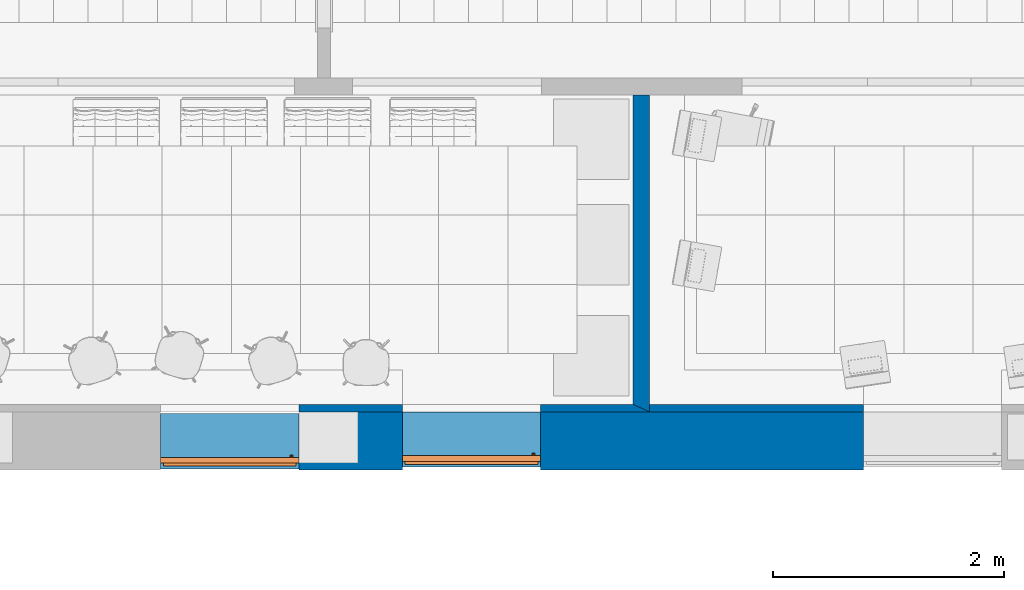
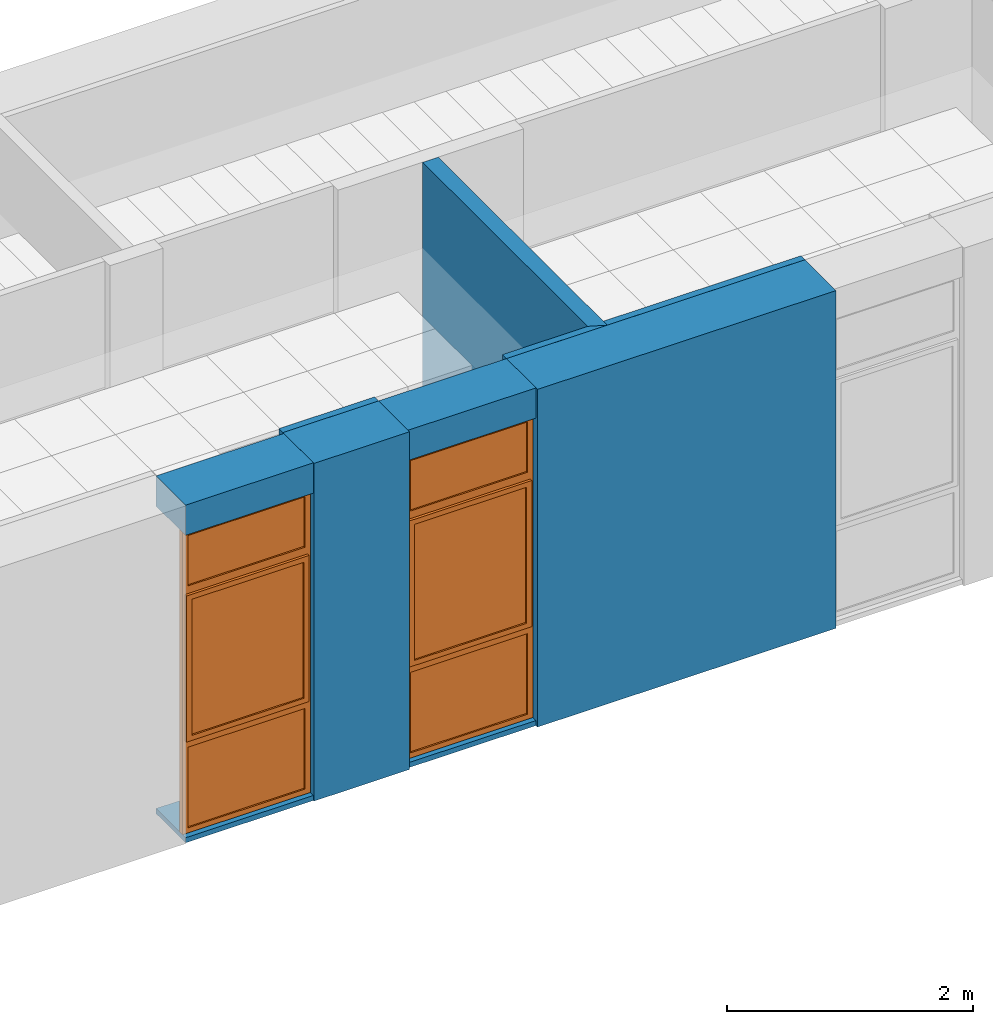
# One storey, part 37 of 68: 8 walls, 2 proxies, 2 openings.
"""IFC2X3 building model written with IfcOpenShell, lengths in millimetres."""

from ifc_helpers import new_model, entity, si_unit, converted_unit, derived_unit, money_unit, direction, frame, origin_with_axes, origin_2d_with_axis, place, context, subcontext, project, spatial, polyline, rectangle, outline, extrude, open_shell, faceted_brep, surface_model, source, transform, mapped, material, layer, layer_set, layer_usage, type_object, element, fill, save


model = new_model("IFC2X3")

# Units and contexts
model_context = context("Model", 3, precision=0.01, world=origin_with_axes(), true_north=direction((0.0, 1.0)))
body_context = subcontext(model_context, "Body", "Model", "MODEL_VIEW")
ifc_project = project(units=[si_unit("LENGTHUNIT", "METRE", prefix="MILLI"), si_unit("AREAUNIT", "SQUARE_METRE"), si_unit("VOLUMEUNIT", "CUBIC_METRE"), converted_unit("PLANEANGLEUNIT", "DEGREE", entity("IfcPlaneAngleMeasure", 0.0174532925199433), si_unit("PLANEANGLEUNIT", "RADIAN"), dimensions=[0, 0, 0, 0, 0, 0, 0]), money_unit("USD"), converted_unit("TIMEUNIT", "Year", entity("IfcTimeMeasure", 31557600.0), si_unit("TIMEUNIT", "SECOND"), dimensions=[0, 0, 1, 0, 0, 0, 0]), si_unit("MASSUNIT", "GRAM", prefix="KILO"), si_unit("THERMODYNAMICTEMPERATUREUNIT", "DEGREE_CELSIUS"), si_unit("LUMINOUSINTENSITYUNIT", "LUMEN"), si_unit("ENERGYUNIT", "JOULE", prefix="MEGA"), derived_unit("THERMALCONDUCTANCEUNIT", [(si_unit("POWERUNIT", "WATT"), 1), (si_unit("LENGTHUNIT", "METRE"), -1), (si_unit("THERMODYNAMICTEMPERATUREUNIT", "KELVIN"), -1)]), derived_unit("SPECIFICHEATCAPACITYUNIT", [(si_unit("ENERGYUNIT", "JOULE"), 1), (si_unit("MASSUNIT", "GRAM", prefix="KILO"), -1), (si_unit("THERMODYNAMICTEMPERATUREUNIT", "KELVIN"), -1)]), derived_unit("MASSDENSITYUNIT", [(si_unit("MASSUNIT", "GRAM", prefix="KILO"), 1), (si_unit("VOLUMEUNIT", "CUBIC_METRE"), -1)])], contexts=[model_context])

# Site, building, storey
site_placement = place(None, origin_with_axes())
site = spatial("IfcSite", under=ifc_project, at=site_placement, Name="Sitio", CompositionType="ELEMENT")
building_placement = place(site_placement, origin_with_axes())
building = spatial("IfcBuilding", under=site, at=building_placement, Name="Construcción", CompositionType="ELEMENT")
storey_placement = place(building_placement, origin_with_axes())
storey = spatial("IfcBuildingStorey", under=building, at=storey_placement, Name="PLANTA 1ª", CompositionType="ELEMENT", Elevation=0.0)

# Wall, opening, proxy
ifc_material_1 = material(Name="ARQ_AM246_Arrebossat_De_Guix")
ifc_layer_1 = layer(ifc_material_1, 10.0, ventilated="UNKNOWN")
ifc_material_2 = material(Name="ARQ_CE217_Gero")
ifc_layer_2 = layer(ifc_material_2, 120.0, ventilated="UNKNOWN")
ifc_material_3 = material(Name="ARQ_AI031_Aillament_Poliestireno expandido EPS")
ifc_layer_3 = layer(ifc_material_3, 120.0, ventilated="UNKNOWN")
ifc_material_4 = material(Name="ARQ_CE218_Ceramic")
ifc_layer_4 = layer(ifc_material_4, 220.0, ventilated="UNKNOWN")
ifc_layer_5 = layer(ifc_material_1, 10.0, ventilated="UNKNOWN")
ifc_layer_set_1 = layer_set([ifc_layer_1, ifc_layer_2, ifc_layer_3, ifc_layer_4, ifc_layer_5], Name="façana pati CR2 (ampit)")
ifc_layer_usage_1 = layer_usage(ifc_layer_set_1, "AXIS2", "POSITIVE", -480.0)
wall_type_1 = type_object("IfcWallType", Name="façana pati CR2 (ampit) 480", PredefinedType="NOTDEFINED")
wall_1_placement = place(storey_placement, frame((-20233.93135579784, -1208.975823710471, 0.0), z_axis=(0.0, 0.0, 1.0), x_axis=(1.0, 0.0, 0.0)))
wall_1 = element("IfcWallStandardCase", 1, at=wall_1_placement, inside=storey, type_object=wall_type_1, material=ifc_layer_usage_1, Name="MS-200", context=body_context, shape_type="SweptSolid", body=[
    extrude(outline(polyline([(0.0, -480.0), (1200.000000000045, -480.0), (1200.000000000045, 0.0), (0.0, 0.0), (0.0, -480.0)])), origin_with_axes(), (0.0, 0.0, 1.0), 3350.0),
])
opening_1_placement = place(wall_1_placement, frame((600.0000000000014, 0.0, 50.0), z_axis=(0.0, 0.0, 1.0), x_axis=(1.0, 0.0, 0.0)))
opening_1 = element("IfcOpeningElement", 2, at=opening_1_placement, cuts=wall_1, Name="F01", context=body_context, shape_type="SweptSolid", body=[
    extrude(rectangle(XDim=1200.000000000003, YDim=3000.0, at=origin_2d_with_axis()), frame((0.0, -429.9999999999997, 1500.0), z_axis=(0.0, -1.0, 0.0), x_axis=(-1.0, 0.0, 0.0)), (0.0, 0.0, -1.0), 909.9999999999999),
    extrude(rectangle(XDim=1200.000000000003, YDim=3000.0, at=origin_2d_with_axis()), frame((0.0, -429.9999999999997, 1500.0), z_axis=(0.0, 1.0, 0.0), x_axis=(-1.0, 0.0, 0.0)), (0.0, 0.0, -1.0), 530.0),
])
building_element_proxy_type = type_object("IfcBuildingElementProxyType", Name="Ventana Vertical Multi-Faja 27", PredefinedType="NOTDEFINED")
shared_shape = source(origin_with_axes(), body_context, "Body", "SurfaceModel", [
    faceted_brep([(-575.0, 0.0, 925.0), (-549.9999999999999, 0.0, 925.0), (-549.9999999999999, 0.0, 850.0), (-549.9999999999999, 0.0, 50.00000000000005), (-600.0, 0.0, 50.00000000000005), (-600.0, 0.0, 2950.0), (-549.9999999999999, 0.0, 2950.0), (-549.9999999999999, 0.0, 2450.0), (-549.9999999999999, 0.0, 2375.0), (-575.0, 0.0, 2375.0), (-575.0, -25.00000000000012, 925.0), (-549.9999999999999, -25.00000000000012, 925.0), (-549.9999999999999, -25.00000000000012, 950.0000000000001), (-549.9999999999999, -50.00000000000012, 950.0000000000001), (-549.9999999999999, -50.00000000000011, 850.0), (-549.9999999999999, -50.00000000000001, 50.00000000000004), (-600.0, -50.00000000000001, 50.00000000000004), (-600.0, -50.00000000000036, 2950.0), (-549.9999999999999, -50.00000000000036, 2950.0), (-549.9999999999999, -50.0000000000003, 2450.0), (-550.0, -25.00000000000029, 2375.0), (-549.9999999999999, -50.00000000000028, 2350.0), (-549.9999999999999, -25.00000000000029, 2350.0), (-575.0, -25.00000000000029, 2375.0)], [[[0, 1, 2, 3, 4, 5, 6, 7, 8, 9]], [[0, 10, 11, 1]], [[11, 12, 13, 14, 2, 1]], [[3, 2, 14, 15]], [[4, 3, 15, 16]], [[5, 4, 16, 17]], [[6, 5, 17, 18]], [[7, 6, 18, 19]], [[20, 8, 7, 19, 21, 22]], [[20, 23, 9, 8]], [[9, 23, 10, 0]], [[22, 12, 11, 10, 23, 20]], [[22, 21, 13, 12]], [[17, 16, 15, 14, 13, 21, 19, 18]]]),
    faceted_brep([(575.0, 0.0, 925.0), (575.0, 0.0, 2375.0), (549.9999999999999, 0.0, 2375.0), (549.9999999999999, 0.0, 2450.0), (549.9999999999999, 0.0, 2950.0), (600.0, 0.0, 2950.0), (600.0, 0.0, 50.00000000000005), (549.9999999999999, 0.0, 50.00000000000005), (549.9999999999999, 0.0, 850.0), (549.9999999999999, 0.0, 925.0), (575.0, -25.00000000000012, 925.0), (575.0, -25.00000000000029, 2375.0), (549.9999999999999, -25.00000000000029, 2375.0), (549.9999999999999, -25.00000000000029, 2350.0), (549.9999999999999, -50.00000000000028, 2350.0), (549.9999999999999, -50.0000000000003, 2450.0), (549.9999999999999, -50.00000000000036, 2950.0), (600.0, -50.00000000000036, 2950.0), (600.0, -50.00000000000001, 50.00000000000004), (549.9999999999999, -50.00000000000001, 50.00000000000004), (549.9999999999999, -50.00000000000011, 850.0), (550.0, -25.00000000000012, 925.0), (549.9999999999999, -50.00000000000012, 950.0000000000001), (549.9999999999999, -25.00000000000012, 950.0000000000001)], [[[0, 1, 2, 3, 4, 5, 6, 7, 8, 9]], [[0, 10, 11, 1]], [[1, 11, 12, 2]], [[12, 13, 14, 15, 3, 2]], [[4, 3, 15, 16]], [[5, 4, 16, 17]], [[6, 5, 17, 18]], [[7, 6, 18, 19]], [[8, 7, 19, 20]], [[21, 9, 8, 20, 22, 23]], [[9, 21, 10, 0]], [[12, 11, 10, 21, 23, 13]], [[23, 22, 14, 13]], [[14, 22, 20, 19, 18, 17, 16, 15]]]),
    faceted_brep([(-549.9999999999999, -25.00000000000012, 950.0000000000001), (-549.9999999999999, -50.00000000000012, 950.0000000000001), (549.9999999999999, -50.00000000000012, 950.0000000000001), (549.9999999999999, -25.00000000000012, 950.0000000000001), (-549.9999999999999, -25.00000000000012, 925.0), (-549.9999999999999, 0.0, 925.0), (-549.9999999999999, 0.0, 850.0), (-549.9999999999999, -50.00000000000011, 850.0), (549.9999999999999, -50.00000000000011, 850.0), (550.0, -25.00000000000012, 925.0), (549.9999999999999, 0.0, 850.0), (549.9999999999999, 0.0, 925.0)], [[[0, 1, 2, 3]], [[4, 5, 6, 7, 1, 0]], [[1, 7, 8, 2]], [[9, 3, 2, 8, 10, 11]], [[9, 4, 0, 3]], [[5, 4, 9, 11]], [[11, 10, 6, 5]], [[6, 10, 8, 7]]]),
    faceted_brep([(-549.9999999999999, 0.0, 2375.0), (-549.9999999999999, 0.0, 2450.0), (549.9999999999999, 0.0, 2450.0), (549.9999999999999, 0.0, 2375.0), (-550.0, -25.00000000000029, 2375.0), (-549.9999999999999, -25.00000000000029, 2350.0), (-549.9999999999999, -50.00000000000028, 2350.0), (-549.9999999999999, -50.0000000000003, 2450.0), (549.9999999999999, -50.0000000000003, 2450.0), (549.9999999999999, -25.00000000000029, 2375.0), (549.9999999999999, -50.00000000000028, 2350.0), (549.9999999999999, -25.00000000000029, 2350.0)], [[[0, 1, 2, 3]], [[4, 5, 6, 7, 1, 0]], [[2, 1, 7, 8]], [[9, 3, 2, 8, 10, 11]], [[9, 4, 0, 3]], [[11, 5, 4, 9]], [[11, 10, 6, 5]], [[7, 6, 10, 8]]]),
    faceted_brep([(549.9999999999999, -50.00000000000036, 2950.0), (549.9999999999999, 0.0, 2950.0), (600.0, 0.0, 2950.0), (600.0, -50.00000000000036, 2950.0), (-549.9999999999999, -50.00000000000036, 2950.0), (-549.9999999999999, 0.0, 2950.0), (-600.0, 0.0, 2950.0), (-600.0, 0.0, 3000.0), (600.0, 0.0, 3000.0), (600.0, -50.00000000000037, 3000.0), (-600.0, -50.00000000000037, 3000.0), (-600.0, -50.00000000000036, 2950.0)], [[[0, 1, 2, 3]], [[4, 5, 1, 0]], [[1, 5, 6, 7, 8, 2]], [[3, 2, 8, 9]], [[0, 3, 9, 10, 11, 4]], [[11, 6, 5, 4]], [[10, 7, 6, 11]], [[9, 8, 7, 10]]]),
    faceted_brep([(-549.9999999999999, -50.00000000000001, 50.0), (-549.9999999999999, 0.0, 50.00000000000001), (-600.0, 0.0, 50.00000000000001), (-600.0, -50.00000000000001, 50.0), (549.9999999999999, -50.00000000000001, 50.0), (549.9999999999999, 0.0, 50.00000000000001), (600.0, 0.0, 50.00000000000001), (600.0, 0.0, 0.0), (-600.0, 0.0, 0.0), (-600.0, -50.0, 0.0), (600.0, -50.0, 0.0), (600.0, -50.00000000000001, 50.0)], [[[0, 1, 2, 3]], [[4, 5, 1, 0]], [[1, 5, 6, 7, 8, 2]], [[3, 2, 8, 9]], [[0, 3, 9, 10, 11, 4]], [[11, 6, 5, 4]], [[10, 7, 6, 11]], [[9, 8, 7, 10]]]),
    surface_model("IfcShellBasedSurfaceModel", [(-549.9999999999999, -35.0, 49.99999999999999), (549.9999999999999, -35.0, 49.99999999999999), (549.9999999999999, -35.0000000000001, 850.0), (-549.9999999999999, -35.0000000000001, 850.0)], [open_shell([[[0, 1, 2, 3]]])]),
    surface_model("IfcShellBasedSurfaceModel", [(-549.9999999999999, -15.0, 49.99999999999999), (-549.9999999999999, -15.0000000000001, 850.0), (549.9999999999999, -15.0000000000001, 850.0), (549.9999999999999, -15.0, 49.99999999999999)], [open_shell([[[0, 1, 2, 3]]])]),
    faceted_brep([(-521.5, -25.00000000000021, 1677.0), (-522.8397459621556, -25.00000000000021, 1682.0), (-522.8397459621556, -37.00000000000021, 1682.0), (-521.5, -37.00000000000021, 1677.0), (-521.5, -25.0000000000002, 1623.0), (-522.8397459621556, -25.0000000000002, 1618.0), (-526.5, -25.0000000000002, 1614.339745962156), (-531.5, -25.0000000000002, 1613.0), (-543.5, -25.0000000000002, 1613.0), (-548.5, -25.0000000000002, 1614.339745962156), (-552.1602540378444, -25.0000000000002, 1618.0), (-553.5, -25.0000000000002, 1623.0), (-553.5, -25.00000000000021, 1677.0), (-552.1602540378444, -25.00000000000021, 1682.0), (-548.5, -25.00000000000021, 1685.660254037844), (-543.5, -25.00000000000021, 1687.0), (-531.5, -25.00000000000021, 1687.0), (-526.5, -25.00000000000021, 1685.660254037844), (-526.5, -37.00000000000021, 1685.660254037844), (-531.5, -37.00000000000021, 1687.0), (-543.5, -37.00000000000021, 1687.0), (-548.5, -37.00000000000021, 1685.660254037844), (-552.1602540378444, -37.00000000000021, 1682.0), (-553.5, -37.00000000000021, 1677.0), (-553.5, -37.0000000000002, 1623.0), (-552.1602540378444, -37.0000000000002, 1618.0), (-548.5, -37.0000000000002, 1614.339745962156), (-543.5, -37.0000000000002, 1613.0), (-531.5, -37.0000000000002, 1613.0), (-526.5, -37.0000000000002, 1614.339745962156), (-522.8397459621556, -37.0000000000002, 1618.0), (-521.5, -37.0000000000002, 1623.0)], [[[0, 1, 2, 3]], [[0, 4, 5, 6, 7, 8, 9, 10, 11, 12, 13, 14, 15, 16, 17, 1]], [[1, 17, 18, 2]], [[3, 2, 18, 19, 20, 21, 22, 23, 24, 25, 26, 27, 28, 29, 30, 31]], [[4, 0, 3, 31]], [[5, 4, 31, 30]], [[6, 5, 30, 29]], [[7, 6, 29, 28]], [[8, 7, 28, 27]], [[9, 8, 27, 26]], [[10, 9, 26, 25]], [[11, 10, 25, 24]], [[12, 11, 24, 23]], [[13, 12, 23, 22]], [[14, 13, 22, 21]], [[15, 14, 21, 20]], [[16, 15, 20, 19]], [[17, 16, 19, 18]]]),
    faceted_brep([(-537.5, -37.0000000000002, 1663.5), (-544.25, -37.0000000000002, 1661.69134295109), (-544.25, -61.00000000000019, 1661.69134295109), (-537.5, -61.00000000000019, 1663.5), (-530.75, -37.0000000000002, 1661.69134295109), (-525.80865704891, -37.0000000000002, 1656.75), (-524.0, -37.0000000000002, 1650.0), (-525.8086570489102, -37.0000000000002, 1643.25), (-530.75, -37.0000000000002, 1638.30865704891), (-537.5, -37.0000000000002, 1636.5), (-544.25, -37.0000000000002, 1638.30865704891), (-549.19134295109, -37.0000000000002, 1643.25), (-550.9999999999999, -37.0000000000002, 1650.0), (-549.1913429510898, -37.0000000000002, 1656.75), (-549.1913429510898, -61.00000000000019, 1656.75), (-550.9999999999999, -61.00000000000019, 1650.0), (-549.19134295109, -61.00000000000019, 1643.25), (-544.25, -61.00000000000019, 1638.30865704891), (-537.5, -61.00000000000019, 1636.5), (-530.75, -61.00000000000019, 1638.30865704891), (-525.8086570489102, -61.00000000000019, 1643.25), (-524.0, -61.00000000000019, 1650.0), (-525.80865704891, -61.00000000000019, 1656.75), (-530.75, -61.00000000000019, 1661.69134295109)], [[[0, 1, 2, 3]], [[0, 4, 5, 6, 7, 8, 9, 10, 11, 12, 13, 1]], [[1, 13, 14, 2]], [[3, 2, 14, 15, 16, 17, 18, 19, 20, 21, 22, 23]], [[4, 0, 3, 23]], [[5, 4, 23, 22]], [[6, 5, 22, 21]], [[7, 6, 21, 20]], [[8, 7, 20, 19]], [[9, 8, 19, 18]], [[10, 9, 18, 17]], [[11, 10, 17, 16]], [[12, 11, 16, 15]], [[13, 12, 15, 14]]]),
    faceted_brep([(-526.0, -61.00000000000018, 1543.0), (-537.5, -61.00000000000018, 1540.0), (-548.9999999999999, -61.00000000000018, 1543.0), (-550.9999999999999, -61.00000000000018, 1546.0), (-550.9999999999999, -61.00000000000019, 1650.0), (-549.1913429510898, -61.00000000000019, 1656.75), (-544.25, -61.00000000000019, 1661.69134295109), (-537.5, -61.00000000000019, 1663.5), (-530.75, -61.00000000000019, 1661.69134295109), (-525.80865704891, -61.00000000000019, 1656.75), (-524.0, -61.00000000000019, 1650.0), (-524.0, -61.00000000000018, 1546.0), (-525.9999999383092, -69.00000000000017, 1543.000000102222), (-537.499999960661, -69.00000000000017, 1539.999999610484), (-548.9999999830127, -69.00000000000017, 1543.000000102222), (-551.0000003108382, -69.00000000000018, 1545.999999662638), (-551.0000003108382, -69.0000000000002, 1649.99999994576), (-549.1913429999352, -69.0000000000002, 1656.749999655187), (-544.2499996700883, -69.0000000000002, 1661.691342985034), (-537.499999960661, -69.0000000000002, 1663.500000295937), (-530.7500002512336, -69.0000000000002, 1661.691342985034), (-525.8086569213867, -69.0000000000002, 1656.749999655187), (-523.9999996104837, -69.0000000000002, 1649.99999994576), (-523.9999996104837, -69.00000000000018, 1545.999999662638), (-527.8625374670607, -71.99999956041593, 1545.61451963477), (-537.499999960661, -71.99999956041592, 1543.100398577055), (-547.1374624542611, -71.99999956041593, 1545.61451963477), (-548.0000007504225, -71.99999956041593, 1546.908326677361), (-548.0000007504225, -71.99999956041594, 1649.605042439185), (-546.5016170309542, -71.99999956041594, 1655.197085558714), (-542.6970855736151, -71.99999956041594, 1659.001617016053), (-537.499999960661, -71.99999956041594, 1660.394172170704), (-532.3029143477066, -71.99999956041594, 1659.001617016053), (-528.4983828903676, -71.99999956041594, 1655.197085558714), (-526.9999991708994, -71.99999956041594, 1649.605042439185), (-526.9999991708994, -71.99999956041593, 1546.908326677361)], [[[0, 1, 2, 3, 4, 5, 6, 7, 8, 9, 10, 11]], [[1, 0, 12, 13]], [[2, 1, 13, 14]], [[3, 2, 14, 15]], [[4, 3, 15, 16]], [[5, 4, 16, 17]], [[6, 5, 17, 18]], [[7, 6, 18, 19]], [[8, 7, 19, 20]], [[9, 8, 20, 21]], [[10, 9, 21, 22]], [[11, 10, 22, 23]], [[0, 11, 23, 12]], [[13, 12, 24, 25]], [[14, 13, 25, 26]], [[15, 14, 26, 27]], [[16, 15, 27, 28]], [[17, 16, 28, 29]], [[18, 17, 29, 30]], [[19, 18, 30, 31]], [[20, 19, 31, 32]], [[21, 20, 32, 33]], [[22, 21, 33, 34]], [[23, 22, 34, 35]], [[12, 23, 35, 24]], [[26, 25, 24, 35, 34, 33, 32, 31, 30, 29, 28, 27]]]),
    faceted_brep([(-524.9999999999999, -25.00000000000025, 2325.0), (-524.9999999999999, 24.99999999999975, 2325.0), (-575.0, 24.99999999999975, 2325.0), (-575.0, -25.00000000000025, 2325.0), (-524.9999999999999, -25.00000000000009, 975.0000000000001), (-524.9999999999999, 24.99999999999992, 975.0000000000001), (-575.0, 24.99999999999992, 975.0000000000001), (-575.0, -25.00000000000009, 975.0000000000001)], [[[0, 1, 2, 3]], [[4, 5, 1, 0]], [[1, 5, 6, 2]], [[3, 2, 6, 7]], [[0, 3, 7, 4]], [[7, 6, 5, 4]]]),
    faceted_brep([(524.9999999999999, -25.00000000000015, 975.0000000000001), (524.9999999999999, 24.99999999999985, 975.0000000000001), (575.0, 24.99999999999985, 975.0000000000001), (575.0, -25.00000000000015, 975.0000000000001), (524.9999999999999, -25.00000000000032, 2325.0), (524.9999999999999, 24.99999999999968, 2325.0), (575.0, 24.99999999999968, 2325.0), (575.0, -25.00000000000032, 2325.0)], [[[0, 1, 2, 3]], [[4, 5, 1, 0]], [[1, 5, 6, 2]], [[3, 2, 6, 7]], [[0, 3, 7, 4]], [[7, 6, 5, 4]]]),
    faceted_brep([(575.0, -25.00000000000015, 925.0), (575.0, 24.99999999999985, 925.0), (575.0, 24.99999999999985, 975.0000000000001), (575.0, -25.00000000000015, 975.0000000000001), (-575.0, -25.00000000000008, 925.0), (-575.0, 24.99999999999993, 925.0), (-575.0, 24.99999999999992, 975.0000000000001), (-524.9999999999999, 24.99999999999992, 975.0000000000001), (524.9999999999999, 24.99999999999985, 975.0000000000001), (524.9999999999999, -25.00000000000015, 975.0000000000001), (-524.9999999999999, -25.00000000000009, 975.0000000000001), (-575.0, -25.00000000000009, 975.0000000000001)], [[[0, 1, 2, 3]], [[4, 5, 1, 0]], [[1, 5, 6, 7, 8, 2]], [[3, 2, 8, 9]], [[0, 3, 9, 10, 11, 4]], [[11, 6, 5, 4]], [[10, 7, 6, 11]], [[9, 8, 7, 10]]]),
    faceted_brep([(-575.0, -25.00000000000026, 2375.0), (-575.0, 24.99999999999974, 2375.0), (-575.0, 24.99999999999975, 2325.0), (-575.0, -25.00000000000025, 2325.0), (575.0, -25.00000000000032, 2375.0), (575.0, 24.99999999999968, 2375.0), (575.0, 24.99999999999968, 2325.0), (524.9999999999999, 24.99999999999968, 2325.0), (-524.9999999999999, 24.99999999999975, 2325.0), (-524.9999999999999, -25.00000000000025, 2325.0), (524.9999999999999, -25.00000000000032, 2325.0), (575.0, -25.00000000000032, 2325.0)], [[[0, 1, 2, 3]], [[4, 5, 1, 0]], [[1, 5, 6, 7, 8, 2]], [[3, 2, 8, 9]], [[0, 3, 9, 10, 11, 4]], [[11, 6, 5, 4]], [[10, 7, 6, 11]], [[9, 8, 7, 10]]]),
    surface_model("IfcShellBasedSurfaceModel", [(-524.9999999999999, -10.00000000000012, 975.0000000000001), (524.9999999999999, -10.00000000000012, 975.0000000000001), (524.9999999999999, -10.00000000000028, 2325.0), (-524.9999999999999, -10.00000000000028, 2325.0)], [open_shell([[[0, 1, 2, 3]]])]),
    surface_model("IfcShellBasedSurfaceModel", [(-524.9999999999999, 9.999999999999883, 975.0000000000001), (-524.9999999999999, 9.99999999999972, 2325.0), (524.9999999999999, 9.99999999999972, 2325.0), (524.9999999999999, 9.999999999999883, 975.0000000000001)], [open_shell([[[0, 1, 2, 3]]])]),
    surface_model("IfcShellBasedSurfaceModel", [(-549.9999999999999, -35.0000000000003, 2450.0), (549.9999999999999, -35.0000000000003, 2450.0), (549.9999999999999, -35.00000000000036, 2950.0), (-549.9999999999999, -35.00000000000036, 2950.0)], [open_shell([[[0, 1, 2, 3]]])]),
    surface_model("IfcShellBasedSurfaceModel", [(-549.9999999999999, -15.0000000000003, 2450.0), (-549.9999999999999, -15.00000000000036, 2950.0), (549.9999999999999, -15.00000000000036, 2950.0), (549.9999999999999, -15.0000000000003, 2450.0)], [open_shell([[[0, 1, 2, 3]]])]),
])
proxy_1_placement = place(opening_1_placement, frame((600.0000000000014, 0.0, 0.0), z_axis=(0.0, 0.0, 1.0), x_axis=(-1.0, 0.0, 0.0)))
proxy_1 = element("IfcBuildingElementProxy", 3, at=proxy_1_placement, inside=storey, type_object=building_element_proxy_type, Name="F01", context=body_context, shape_type="MappedRepresentation", body=[
    mapped(shared_shape, transform((600.0000000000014, 429.9999999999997, 0.0))),
])
fill(opening_1, proxy_1)

ifc_layer_usage_2 = layer_usage(ifc_layer_set_1, "AXIS2", "POSITIVE", -480.0)
wall_2_placement = place(storey_placement, frame((-18136.43135579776, -1193.975823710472, 0.0), z_axis=(0.0, 0.0, 1.0), x_axis=(1.0, 0.0, 0.0)))
wall_2 = element("IfcWallStandardCase", 4, at=wall_2_placement, inside=storey, type_object=wall_type_1, material=ifc_layer_usage_2, Name="MS-200", context=body_context, shape_type="SweptSolid", body=[
    extrude(outline(polyline([(0.0, -480.0), (1200.000000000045, -480.0), (1200.000000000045, 0.0), (0.0, 0.0), (0.0, -480.0)])), origin_with_axes(), (0.0, 0.0, 1.0), 3350.0),
])
opening_2_placement = place(wall_2_placement, frame((600.0000000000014, 0.0, 50.0), z_axis=(0.0, 0.0, 1.0), x_axis=(1.0, 0.0, 0.0)))
opening_2 = element("IfcOpeningElement", 5, at=opening_2_placement, cuts=wall_2, Name="F01", context=body_context, shape_type="SweptSolid", body=[
    extrude(rectangle(XDim=1200.000000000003, YDim=3000.0, at=origin_2d_with_axis()), frame((0.0, -429.9999999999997, 1500.0), z_axis=(0.0, -1.0, 0.0), x_axis=(-1.0, 0.0, 0.0)), (0.0, 0.0, -1.0), 909.9999999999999),
    extrude(rectangle(XDim=1200.000000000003, YDim=3000.0, at=origin_2d_with_axis()), frame((0.0, -429.9999999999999, 1500.0), z_axis=(0.0, 1.0, 0.0), x_axis=(-1.0, 0.0, 0.0)), (0.0, 0.0, -1.0), 530.0),
])
proxy_2_placement = place(opening_2_placement, frame((600.0000000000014, 0.0, 0.0), z_axis=(0.0, 0.0, 1.0), x_axis=(-1.0, 0.0, 0.0)))
proxy_2 = element("IfcBuildingElementProxy", 6, at=proxy_2_placement, inside=storey, type_object=building_element_proxy_type, Name="F01", context=body_context, shape_type="MappedRepresentation", body=[
    mapped(shared_shape, transform((600.0000000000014, 430.0000000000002, 0.0))),
])
fill(opening_2, proxy_2)

# Walls
ifc_layer_6 = layer(ifc_material_2, 10.0, ventilated="UNKNOWN")
ifc_layer_7 = layer(ifc_material_2, 90.0, ventilated="UNKNOWN")
ifc_layer_8 = layer(ifc_material_3, 180.0, ventilated="UNKNOWN")
ifc_layer_9 = layer(ifc_material_4, 215.0, ventilated="UNKNOWN")
ifc_layer_10 = layer(ifc_material_1, 10.0, ventilated="UNKNOWN")
ifc_layer_set_2 = layer_set([ifc_layer_6, ifc_layer_7, ifc_layer_8, ifc_layer_9, ifc_layer_10], Name="façana pati CR2")
ifc_layer_usage_3 = layer_usage(ifc_layer_set_2, "AXIS2", "POSITIVE", -505.0)
wall_type_2 = type_object("IfcWallType", Name="façana pati CR2 505", PredefinedType="NOTDEFINED")
wall_3_placement = place(storey_placement, frame((-16936.43135579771, -1193.975823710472, 0.0), z_axis=(0.0, 0.0, 1.0), x_axis=(1.0, 0.0, 0.0)))
element("IfcWallStandardCase", 7, at=wall_3_placement, inside=storey, type_object=wall_type_2, material=ifc_layer_usage_3, Name="MS-200", context=body_context, shape_type="SweptSolid", body=[
    extrude(outline(polyline([(0.0, -504.9999999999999), (2800.500000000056, -504.9999999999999), (2800.500000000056, 0.0), (0.0, 0.0), (0.0, -504.9999999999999)])), origin_with_axes(), (0.0, 0.0, 1.0), 3350.0),
])
ifc_layer_usage_4 = layer_usage(ifc_layer_set_2, "AXIS2", "POSITIVE", -505.0)
wall_4_placement = place(storey_placement, frame((-19033.93135579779, -1193.975823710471, 0.0), z_axis=(0.0, 0.0, 1.0), x_axis=(1.0, 0.0, 0.0)))
element("IfcWallStandardCase", 8, at=wall_4_placement, inside=storey, type_object=wall_type_2, material=ifc_layer_usage_4, Name="MS-200", context=body_context, shape_type="SweptSolid", body=[
    extrude(outline(polyline([(0.0, -505.0000000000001), (897.5000000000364, -505.0000000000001), (897.5000000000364, 0.0), (0.0, 0.0), (0.0, -505.0000000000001)])), origin_with_axes(), (0.0, 0.0, 1.0), 3350.0),
])
ifc_material_5 = material(Name="ARQ_FU093_Panellat_HPL")
ifc_layer_11 = layer(ifc_material_5, 6.0, ventilated="UNKNOWN")
ifc_material_6 = material(Name="ARQ_EN271_Camara_Aire")
ifc_layer_12 = layer(ifc_material_6, 6.0, ventilated="UNKNOWN")
ifc_material_7 = material(Name="Panel de Yeso Laminado")
ifc_layer_13 = layer(ifc_material_7, 13.0, ventilated="UNKNOWN")
ifc_material_8 = material(Name="ARQ_AI033_Aillament_Llana_De_Roca")
ifc_layer_14 = layer(ifc_material_8, 40.0, ventilated="UNKNOWN")
ifc_layer_set_3 = layer_set([ifc_layer_11, ifc_layer_12, ifc_layer_13, ifc_layer_14], Name="Pladur Tras 40 / 1N +HPL")
ifc_layer_usage_5 = layer_usage(ifc_layer_set_3, "AXIS2", "NEGATIVE", 0.0)
wall_type_3 = type_object("IfcWallType", Name="Pladur Tras 40 / 1N +HPL 65", PredefinedType="NOTDEFINED")
wall_5_placement = place(storey_placement, frame((-19033.93135579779, -1128.975823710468, 0.0), z_axis=(0.0, 0.0, 1.0), x_axis=(1.0, 0.0, 0.0)))
element("IfcWallStandardCase", 9, at=wall_5_placement, inside=storey, type_object=wall_type_3, material=ifc_layer_usage_5, Name="MS-241", context=body_context, shape_type="SweptSolid", body=[
    extrude(outline(polyline([(0.0, -64.99999999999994), (897.5000000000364, -64.99999999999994), (897.5000000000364, 0.0), (0.0, 0.0), (0.0, -64.99999999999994)])), origin_with_axes(), (0.0, 0.0, 1.0), 3350.0),
])
ifc_layer_usage_6 = layer_usage(ifc_layer_set_3, "AXIS2", "NEGATIVE", 0.0)
wall_6_placement = place(storey_placement, frame((-16136.43135579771, -1128.975823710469, 0.0), z_axis=(0.0, 0.0, 1.0), x_axis=(1.0, 0.0, 0.0)))
element("IfcWallStandardCase", 10, at=wall_6_placement, inside=storey, type_object=wall_type_3, material=ifc_layer_usage_6, Name="MS-241", context=body_context, shape_type="SweptSolid", body=[
    extrude(outline(polyline([(146.0000000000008, -64.99999999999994), (2000.500000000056, -64.99999999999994), (2000.500000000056, 0.0), (146.0000000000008, 0.0), (146.0000000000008, -64.99999999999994)])), origin_with_axes(), (0.0, 0.0, 1.0), 3350.0),
])
ifc_layer_usage_7 = layer_usage(ifc_layer_set_3, "AXIS2", "NEGATIVE", 0.0)
wall_7_placement = place(storey_placement, frame((-16936.43135579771, -1128.975823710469, 0.0), z_axis=(0.0, 0.0, 1.0), x_axis=(1.0, 0.0, 0.0)))
element("IfcWallStandardCase", 11, at=wall_7_placement, inside=storey, type_object=wall_type_3, material=ifc_layer_usage_7, Name="MS-241", context=body_context, shape_type="SweptSolid", body=[
    extrude(outline(polyline([(0.0, -64.99999999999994), (946.0000000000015, -64.99999999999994), (800.0000000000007, 0.0), (0.0, 0.0), (0.0, -64.99999999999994)])), origin_with_axes(), (0.0, 0.0, 1.0), 3350.0),
])
ifc_layer_15 = layer(ifc_material_5, 6.0, ventilated="UNKNOWN")
ifc_layer_16 = layer(ifc_material_6, 6.0, ventilated="UNKNOWN")
ifc_layer_17 = layer(ifc_material_7, 13.0, ventilated="UNKNOWN")
ifc_layer_18 = layer(ifc_material_7, 13.0, ventilated="UNKNOWN")
ifc_layer_19 = layer(ifc_material_8, 70.0, ventilated="UNKNOWN")
ifc_layer_20 = layer(ifc_material_7, 13.0, ventilated="UNKNOWN")
ifc_layer_21 = layer(ifc_material_7, 13.0, ventilated="UNKNOWN")
ifc_layer_22 = layer(ifc_material_6, 6.0, ventilated="UNKNOWN")
ifc_layer_23 = layer(ifc_material_5, 6.0, ventilated="UNKNOWN")
ifc_layer_set_4 = layer_set([ifc_layer_15, ifc_layer_16, ifc_layer_17, ifc_layer_18, ifc_layer_19, ifc_layer_20, ifc_layer_21, ifc_layer_22, ifc_layer_23], Name="CR Pladur 70 HPL 2 cares")
ifc_layer_usage_8 = layer_usage(ifc_layer_set_4, "AXIS2", "POSITIVE", -146.0)
wall_type_4 = type_object("IfcWallType", Name="CR Pladur 70 HPL 2 cares 146", PredefinedType="NOTDEFINED")
wall_8_placement = place(storey_placement, frame((-16136.43135579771, -1128.975823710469, 0.0), z_axis=(0.0, 0.0, 1.0), x_axis=(0.0, 1.0, 0.0)))
element("IfcWallStandardCase", 12, at=wall_8_placement, inside=storey, type_object=wall_type_4, material=ifc_layer_usage_8, Name="MS-215", context=body_context, shape_type="SweptSolid", body=[
    extrude(outline(polyline([(-64.99999999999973, -146.0000000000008), (2683.828879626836, -146.0000000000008), (2683.828879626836, 0.0), (0.0, 0.0), (-64.99999999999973, -146.0000000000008)])), origin_with_axes(), (0.0, 0.0, 1.0), 3350.0),
])

save(model, "model.ifc")
